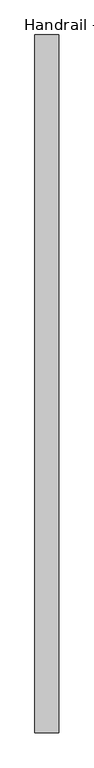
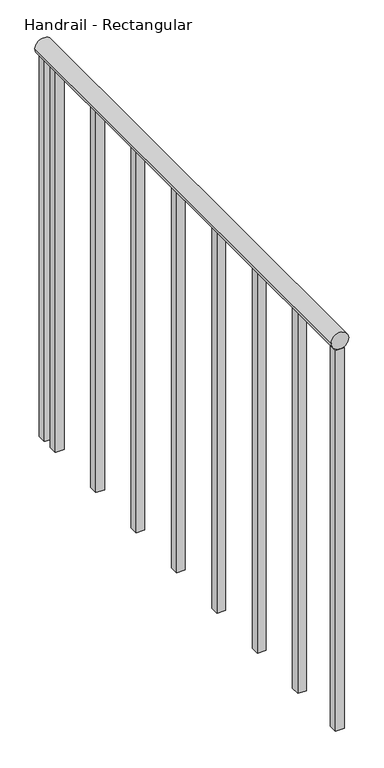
"""IFC4 building model written with IfcOpenShell, lengths in millimetres: railing geometry, Handrail - Rectangular."""

from ifc_helpers import new_model, si_unit, point, frame, frame_2d, origin, place, context, project, spatial, polyline, circle_curve, trimmed, segment, composite_curve, outline, extrude, source, transform, mapped, element, save


def handrail_rectangular_6ff145d7(model_context):
    return source(origin(), model_context, "Body", "SweptSolid", [
        extrude(outline(composite_curve([segment(trimmed(circle_curve(frame_2d((3943.35, -11418.8589563)), 19.05), [point((3943.35, -11399.8089563))], [point((3943.35, -11437.9089563))], False, "CARTESIAN"), True, "CONTINUOUS"), segment(trimmed(circle_curve(frame_2d((3943.35, -11418.8589563)), 19.05), [point((3943.35, -11437.9089563))], [point((3943.35, -11399.8089563))], False, "CARTESIAN"), True, "CONTINUOUS")], self_intersect=False)), frame((0.0, -35349.9683133, 0.0), z_axis=(0.0, 1.0, 0.0), x_axis=(0.0, 0.0, 1.0)), (0.0, 0.0, 1.0), 1117.6),
        extrude(outline(polyline([(-11428.3839563, -34292.6933133), (-11428.3839563, -34273.6433133), (-11409.3339563, -34273.6433133), (-11409.3339563, -34292.6933133), (-11428.3839563, -34292.6933133)])), frame((0.0, 0.0, 3048.0), z_axis=(0.0, 0.0, 1.0), x_axis=(1.0, 0.0, 0.0)), (0.0, 0.0, 1.0), 876.3),
        extrude(outline(polyline([(-11428.3839563, -34445.0933133), (-11428.3839563, -34426.0433133), (-11409.3339563, -34426.0433133), (-11409.3339563, -34445.0933133), (-11428.3839563, -34445.0933133)])), frame((0.0, 0.0, 3048.0), z_axis=(0.0, 0.0, 1.0), x_axis=(1.0, 0.0, 0.0)), (0.0, 0.0, 1.0), 876.3),
        extrude(outline(polyline([(-11428.3839563, -34597.4933133), (-11428.3839563, -34578.4433133), (-11409.3339563, -34578.4433133), (-11409.3339563, -34597.4933133), (-11428.3839563, -34597.4933133)])), frame((0.0, 0.0, 3048.0), z_axis=(0.0, 0.0, 1.0), x_axis=(1.0, 0.0, 0.0)), (0.0, 0.0, 1.0), 876.3),
        extrude(outline(polyline([(-11428.3839563, -34749.8933133), (-11428.3839563, -34730.8433133), (-11409.3339563, -34730.8433133), (-11409.3339563, -34749.8933133), (-11428.3839563, -34749.8933133)])), frame((0.0, 0.0, 3048.0), z_axis=(0.0, 0.0, 1.0), x_axis=(1.0, 0.0, 0.0)), (0.0, 0.0, 1.0), 876.3),
        extrude(outline(polyline([(-11428.3839563, -34902.2933133), (-11428.3839563, -34883.2433133), (-11409.3339563, -34883.2433133), (-11409.3339563, -34902.2933133), (-11428.3839563, -34902.2933133)])), frame((0.0, 0.0, 3048.0), z_axis=(0.0, 0.0, 1.0), x_axis=(1.0, 0.0, 0.0)), (0.0, 0.0, 1.0), 876.3),
        extrude(outline(polyline([(-11428.3839563, -35054.6933133), (-11428.3839563, -35035.6433133), (-11409.3339563, -35035.6433133), (-11409.3339563, -35054.6933133), (-11428.3839563, -35054.6933133)])), frame((0.0, 0.0, 3048.0), z_axis=(0.0, 0.0, 1.0), x_axis=(1.0, 0.0, 0.0)), (0.0, 0.0, 1.0), 876.3),
        extrude(outline(polyline([(-11428.3839563, -35207.0933133), (-11428.3839563, -35188.0433133), (-11409.3339563, -35188.0433133), (-11409.3339563, -35207.0933133), (-11428.3839563, -35207.0933133)])), frame((0.0, 0.0, 3048.0), z_axis=(0.0, 0.0, 1.0), x_axis=(1.0, 0.0, 0.0)), (0.0, 0.0, 1.0), 876.3),
        extrude(outline(polyline([(-11428.3839563, -34251.4183133), (-11428.3839563, -34232.3683133), (-11409.3339563, -34232.3683133), (-11409.3339563, -34251.4183133), (-11428.3839563, -34251.4183133)])), frame((0.0, 0.0, 3048.0), z_axis=(0.0, 0.0, 1.0), x_axis=(1.0, 0.0, 0.0)), (0.0, 0.0, 1.0), 876.3),
        extrude(outline(polyline([(-11428.3839563, -35349.9683133), (-11428.3839563, -35330.9183133), (-11409.3339563, -35330.9183133), (-11409.3339563, -35349.9683133), (-11428.3839563, -35349.9683133)])), frame((0.0, 0.0, 3048.0), z_axis=(0.0, 0.0, 1.0), x_axis=(1.0, 0.0, 0.0)), (0.0, 0.0, 1.0), 876.3),
    ])


if __name__ == "__main__":
    model = new_model("IFC4")
    model_context = context("Model", 3, world=origin())
    ifc_project = project(units=[si_unit("LENGTHUNIT", "METRE", prefix="MILLI")], contexts=[model_context])
    site = spatial("IfcSite", under=ifc_project)
    building = spatial("IfcBuilding", under=site)
    placement = place(None, origin())
    handrail_rectangular_shape = handrail_rectangular_6ff145d7(model_context)
    element("IfcRailing", 1, ObjectType="Handrail - Rectangular", at=placement, inside=building, context=model_context, shape_type="MappedRepresentation", body=[
        mapped(handrail_rectangular_shape, transform((0.0, 0.0, 0.0), x_axis=(1.0, 0.0, 0.0), y_axis=(0.0, 1.0, 0.0), z_axis=(0.0, 0.0, 1.0))),
    ])
    save(model, "model.ifc")
